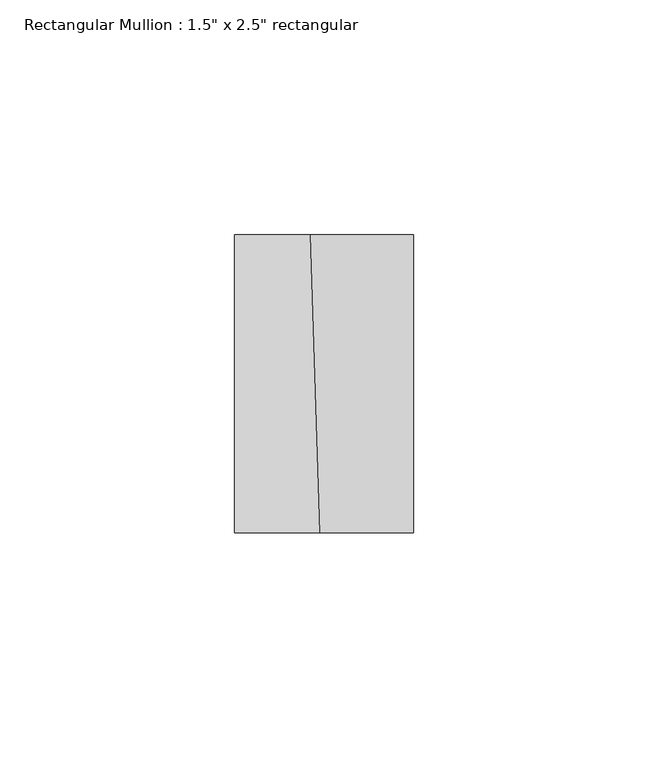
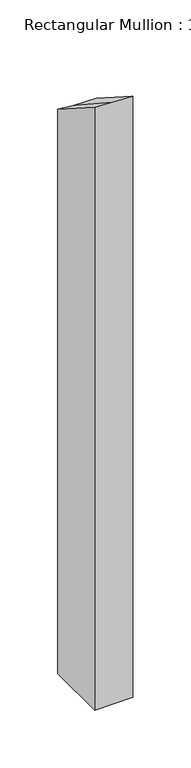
"""IFC4 building model written with IfcOpenShell, lengths in millimetres: member geometry."""

from ifc_helpers import new_model, si_unit, origin, place, context, project, spatial, faceted_brep, source, transform, mapped, element, save


def member_4c6e9f0c(model_context):
    return source(origin(), model_context, "Body", "Brep", [
        faceted_brep([(19.05, 31.75, -651.7205277), (19.05, -31.75, -651.7205277), (-19.05, -31.75, -651.7205277), (-19.05, 31.75, -651.7205277), (-19.05, 31.75, -56.7130711), (-2.8122549, 31.75, -58.0878093), (19.05, 31.75, -58.35652), (-19.05, -31.75, -15.794324), (19.05, -31.75, -17.5805592), (-0.8393074, -31.75, -17.3360982)], [[[0, 1, 2, 3]], [[4, 5, 6, 0, 3]], [[7, 4, 3, 2]], [[8, 9, 7, 2, 1]], [[6, 8, 1, 0]], [[6, 5, 9, 8]], [[5, 4, 7, 9]]]),
    ])


if __name__ == "__main__":
    model = new_model("IFC4")
    model_context = context("Model", 3, world=origin())
    ifc_project = project(units=[si_unit("LENGTHUNIT", "METRE", prefix="MILLI")], contexts=[model_context])
    site = spatial("IfcSite", under=ifc_project)
    building = spatial("IfcBuilding", under=site)
    placement = place(None, origin())
    member_shape = member_4c6e9f0c(model_context)
    element("IfcMember", 1, ObjectType="Rectangular Mullion : 1.5\" x 2.5\" rectangular", at=placement, inside=building, context=model_context, shape_type="MappedRepresentation", body=[
        mapped(member_shape, transform((0.0, 0.0, 0.0), x_axis=(1.0, 0.0, 0.0), y_axis=(0.0, 1.0, 0.0), z_axis=(0.0, 0.0, 1.0))),
    ])
    save(model, "model.ifc")
